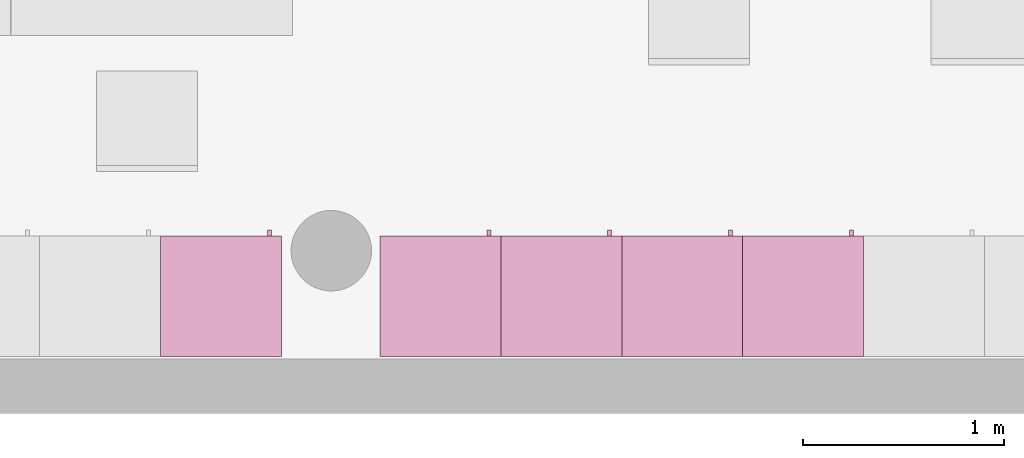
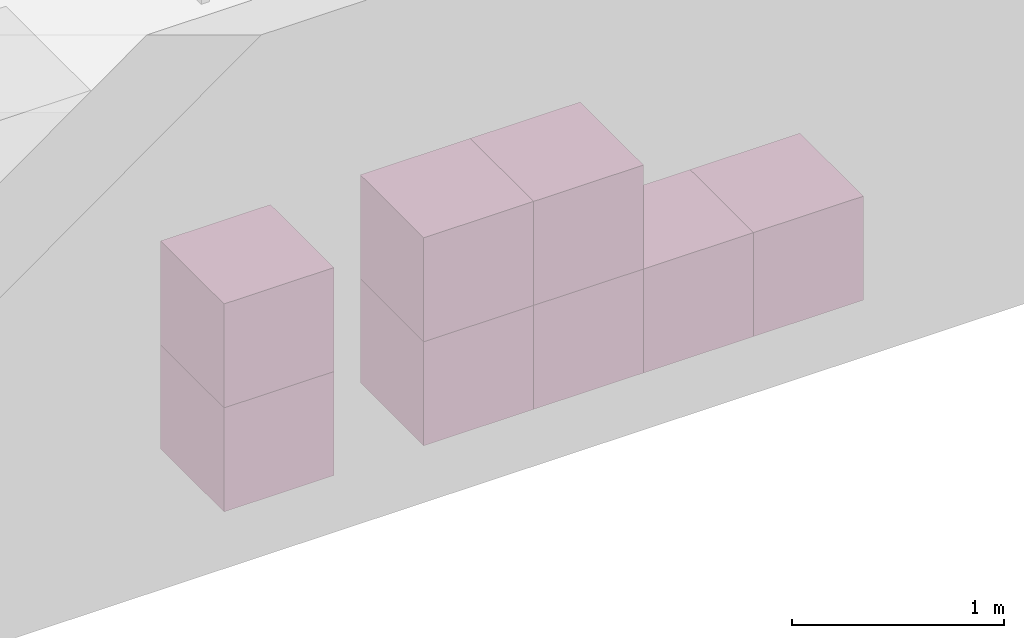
"""IFC4 building model written with IfcOpenShell, lengths in metres."""

from ifc_helpers import new_model, entity, si_unit, converted_unit, derived_unit, frame, origin, place, context, subcontext, project, spatial, faceted_brep, element, save


model = new_model("IFC4")

# Units and contexts
model_context = context("Model", 3, precision=1e-05, world=origin())
body_context = subcontext(model_context, "Body", "Model", "MODEL_VIEW")
ifc_project = project(units=[si_unit("LENGTHUNIT", "METRE"), si_unit("AREAUNIT", "SQUARE_METRE"), si_unit("VOLUMEUNIT", "CUBIC_METRE"), si_unit("MASSUNIT", "GRAM", prefix="KILO"), converted_unit("PLANEANGLEUNIT", "DEGREE", entity("IfcPlaneAngleMeasure", 0.0174532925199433), si_unit("PLANEANGLEUNIT", "RADIAN"), dimensions=[0, 0, 0, 0, 0, 0, 0]), derived_unit("THERMALTRANSMITTANCEUNIT", [(si_unit("POWERUNIT", "WATT"), 1), (si_unit("THERMODYNAMICTEMPERATUREUNIT", "KELVIN"), -1), (si_unit("LENGTHUNIT", "METRE"), -2)]), derived_unit("VOLUMETRICFLOWRATEUNIT", [(si_unit("LENGTHUNIT", "METRE"), 3), (converted_unit("TIMEUNIT", "hour", entity("IfcTimeMeasure", 3600.0), si_unit("TIMEUNIT", "SECOND"), dimensions=[0, 0, 1, 0, 0, 0, 0]), -1), (si_unit("LENGTHUNIT", "METRE"), -1)])], contexts=[model_context])

# Building, storeys
building_placement = place(None, origin())
building = spatial("IfcBuilding", under=ifc_project, at=building_placement, Name="HABITATGE PLURIFAMILIAR", CompositionType="ELEMENT")
storey_1_placement = place(building_placement, frame((0.0, 0.0, 18.29)))
storey_1 = spatial("IfcBuildingStorey", under=building, at=storey_1_placement, Name="PLANTA CINQUENA", CompositionType="ELEMENT", Elevation=18.29)
storey_2_placement = place(storey_1_placement, frame((0.0, 0.0, 15.28)))
storey_2 = spatial("IfcBuildingStorey", under=storey_1, at=storey_2_placement, Name="NOU", CompositionType="PARTIAL")

# Furniture
furniture_1_placement = place(storey_2_placement, frame((415.289266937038, 13.1230771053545, -15.2800000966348)))
element("IfcFurniture", 1, at=furniture_1_placement, inside=storey_2, Name="Armai 60x60x60_P5", context=body_context, shape_type="Brep", body=[
    faceted_brep([(0.600000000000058, 0.6, 0.02), (0.0, 0.6, 0.02), (0.0, 0.6, 0.0), (0.600000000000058, 0.6, 0.0), (0.0, 0.0, 0.02), (0.0, 0.0, 0.0), (0.600000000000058, 0.0, 0.02), (0.600000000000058, 0.0, 0.0)], [[[0, 1, 2, 3]], [[1, 4, 5, 2]], [[4, 6, 7, 5]], [[6, 0, 3, 7]], [[0, 6, 4, 1]], [[3, 2, 5, 7]]], orient=[[False], [False], [False], [False], [False], [False]]),
    faceted_brep([(0.02, 0.0, 0.58), (0.02, 0.0, 0.02), (0.02, 0.0200000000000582, 0.02), (0.02, 0.0200000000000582, 0.58), (0.58, 0.0, 0.02), (0.58, 0.0200000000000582, 0.02), (0.58, 0.0, 0.58), (0.58, 0.0200000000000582, 0.58)], [[[0, 1, 2, 3]], [[1, 4, 5, 2]], [[4, 6, 7, 5]], [[6, 0, 3, 7]], [[0, 6, 4, 1]], [[3, 2, 5, 7]]], orient=[[False], [False], [False], [False], [False], [False]]),
    faceted_brep([(0.58, 0.6, 0.58), (0.58, 0.6, 0.02), (0.6, 0.6, 0.02), (0.6, 0.6, 0.58), (0.58, 0.0, 0.02), (0.6, 0.0, 0.02), (0.58, 0.0, 0.58), (0.6, 0.0, 0.58)], [[[0, 1, 2, 3]], [[1, 4, 5, 2]], [[4, 6, 7, 5]], [[6, 0, 3, 7]], [[0, 6, 4, 1]], [[3, 2, 5, 7]]], orient=[[False], [False], [False], [False], [False], [False]]),
    faceted_brep([(0.600000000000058, 0.58, 0.58), (0.600000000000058, 0.58, 0.02), (0.600000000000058, 0.6, 0.02), (0.600000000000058, 0.6, 0.58), (0.580000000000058, 0.58, 0.02), (0.580000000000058, 0.6, 0.02), (0.580000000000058, 0.58, 0.58), (0.580000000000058, 0.6, 0.58)], [[[0, 1, 2, 3]], [[1, 4, 5, 2]], [[4, 6, 7, 5]], [[6, 0, 3, 7]], [[0, 6, 4, 1]], [[3, 2, 5, 7]]], orient=[[False], [False], [False], [False], [False], [False]]),
    faceted_brep([(0.0, 0.6, 0.58), (0.0, 0.6, 0.02), (0.0200000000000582, 0.6, 0.02), (0.0200000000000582, 0.6, 0.58), (0.0, 0.0, 0.02), (0.0200000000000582, 0.0, 0.02), (0.0, 0.0, 0.58), (0.0200000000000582, 0.0, 0.58)], [[[0, 1, 2, 3]], [[1, 4, 5, 2]], [[4, 6, 7, 5]], [[6, 0, 3, 7]], [[0, 6, 4, 1]], [[3, 2, 5, 7]]], orient=[[False], [False], [False], [False], [False], [False]]),
    faceted_brep([(0.6, 0.600000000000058, 0.6), (0.0, 0.600000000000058, 0.6), (0.0, 0.600000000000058, 0.58), (0.6, 0.600000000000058, 0.58), (0.0, 0.0, 0.6), (0.0, 0.0, 0.58), (0.6, 0.0, 0.6), (0.6, 0.0, 0.58)], [[[0, 1, 2, 3]], [[1, 4, 5, 2]], [[4, 6, 7, 5]], [[6, 0, 3, 7]], [[0, 6, 4, 1]], [[3, 2, 5, 7]]], orient=[[False], [False], [False], [False], [False], [False]]),
    faceted_brep([(0.02, 0.580000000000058, 0.58), (0.02, 0.580000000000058, 0.02), (0.02, 0.600000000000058, 0.02), (0.02, 0.600000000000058, 0.58), (0.580000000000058, 0.580000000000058, 0.02), (0.580000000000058, 0.600000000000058, 0.02), (0.580000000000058, 0.580000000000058, 0.58), (0.580000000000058, 0.600000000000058, 0.58)], [[[0, 1, 2, 3]], [[1, 4, 5, 2]], [[4, 6, 7, 5]], [[6, 0, 3, 7]], [[0, 6, 4, 1]], [[3, 2, 5, 7]]], orient=[[False], [False], [False], [False], [False], [False]]),
    faceted_brep([(0.53, 0.600000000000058, 0.358064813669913), (0.53, 0.600000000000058, 0.258064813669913), (0.53, 0.630000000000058, 0.258064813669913), (0.53, 0.630000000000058, 0.358064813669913), (0.55, 0.600000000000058, 0.258064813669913), (0.55, 0.630000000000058, 0.258064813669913), (0.55, 0.600000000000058, 0.358064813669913), (0.55, 0.630000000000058, 0.358064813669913)], [[[0, 1, 2, 3]], [[1, 4, 5, 2]], [[4, 6, 7, 5]], [[6, 0, 3, 7]], [[0, 6, 4, 1]], [[3, 2, 5, 7]]], orient=[[False], [False], [False], [False], [False], [False]]),
])
furniture_2_placement = place(storey_2_placement, frame((417.579266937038, 13.1230771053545, -15.2800000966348)))
element("IfcFurniture", 2, at=furniture_2_placement, inside=storey_2, Name="Armai 60x60x60_P5", context=body_context, shape_type="Brep", body=[
    faceted_brep([(0.600000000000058, 0.6, 0.02), (0.0, 0.6, 0.02), (0.0, 0.6, 0.0), (0.600000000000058, 0.6, 0.0), (0.0, 0.0, 0.02), (0.0, 0.0, 0.0), (0.600000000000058, 0.0, 0.02), (0.600000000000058, 0.0, 0.0)], [[[0, 1, 2, 3]], [[1, 4, 5, 2]], [[4, 6, 7, 5]], [[6, 0, 3, 7]], [[0, 6, 4, 1]], [[3, 2, 5, 7]]], orient=[[False], [False], [False], [False], [False], [False]]),
    faceted_brep([(0.02, 0.0, 0.58), (0.02, 0.0, 0.02), (0.02, 0.0200000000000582, 0.02), (0.02, 0.0200000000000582, 0.58), (0.58, 0.0, 0.02), (0.58, 0.0200000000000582, 0.02), (0.58, 0.0, 0.58), (0.58, 0.0200000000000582, 0.58)], [[[0, 1, 2, 3]], [[1, 4, 5, 2]], [[4, 6, 7, 5]], [[6, 0, 3, 7]], [[0, 6, 4, 1]], [[3, 2, 5, 7]]], orient=[[False], [False], [False], [False], [False], [False]]),
    faceted_brep([(0.58, 0.6, 0.58), (0.58, 0.6, 0.02), (0.6, 0.6, 0.02), (0.6, 0.6, 0.58), (0.58, 0.0, 0.02), (0.6, 0.0, 0.02), (0.58, 0.0, 0.58), (0.6, 0.0, 0.58)], [[[0, 1, 2, 3]], [[1, 4, 5, 2]], [[4, 6, 7, 5]], [[6, 0, 3, 7]], [[0, 6, 4, 1]], [[3, 2, 5, 7]]], orient=[[False], [False], [False], [False], [False], [False]]),
    faceted_brep([(0.600000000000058, 0.58, 0.58), (0.600000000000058, 0.58, 0.02), (0.600000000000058, 0.6, 0.02), (0.600000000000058, 0.6, 0.58), (0.580000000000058, 0.58, 0.02), (0.580000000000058, 0.6, 0.02), (0.580000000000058, 0.58, 0.58), (0.580000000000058, 0.6, 0.58)], [[[0, 1, 2, 3]], [[1, 4, 5, 2]], [[4, 6, 7, 5]], [[6, 0, 3, 7]], [[0, 6, 4, 1]], [[3, 2, 5, 7]]], orient=[[False], [False], [False], [False], [False], [False]]),
    faceted_brep([(0.0, 0.6, 0.58), (0.0, 0.6, 0.02), (0.0200000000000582, 0.6, 0.02), (0.0200000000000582, 0.6, 0.58), (0.0, 0.0, 0.02), (0.0200000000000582, 0.0, 0.02), (0.0, 0.0, 0.58), (0.0200000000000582, 0.0, 0.58)], [[[0, 1, 2, 3]], [[1, 4, 5, 2]], [[4, 6, 7, 5]], [[6, 0, 3, 7]], [[0, 6, 4, 1]], [[3, 2, 5, 7]]], orient=[[False], [False], [False], [False], [False], [False]]),
    faceted_brep([(0.6, 0.600000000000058, 0.6), (0.0, 0.600000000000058, 0.6), (0.0, 0.600000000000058, 0.58), (0.6, 0.600000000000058, 0.58), (0.0, 0.0, 0.6), (0.0, 0.0, 0.58), (0.6, 0.0, 0.6), (0.6, 0.0, 0.58)], [[[0, 1, 2, 3]], [[1, 4, 5, 2]], [[4, 6, 7, 5]], [[6, 0, 3, 7]], [[0, 6, 4, 1]], [[3, 2, 5, 7]]], orient=[[False], [False], [False], [False], [False], [False]]),
    faceted_brep([(0.02, 0.580000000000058, 0.58), (0.02, 0.580000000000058, 0.02), (0.02, 0.600000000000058, 0.02), (0.02, 0.600000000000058, 0.58), (0.580000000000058, 0.580000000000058, 0.02), (0.580000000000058, 0.600000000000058, 0.02), (0.580000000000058, 0.580000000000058, 0.58), (0.580000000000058, 0.600000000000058, 0.58)], [[[0, 1, 2, 3]], [[1, 4, 5, 2]], [[4, 6, 7, 5]], [[6, 0, 3, 7]], [[0, 6, 4, 1]], [[3, 2, 5, 7]]], orient=[[False], [False], [False], [False], [False], [False]]),
    faceted_brep([(0.53, 0.600000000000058, 0.358064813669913), (0.53, 0.600000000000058, 0.258064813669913), (0.53, 0.630000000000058, 0.258064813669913), (0.53, 0.630000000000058, 0.358064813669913), (0.55, 0.600000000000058, 0.258064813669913), (0.55, 0.630000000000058, 0.258064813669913), (0.55, 0.600000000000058, 0.358064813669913), (0.55, 0.630000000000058, 0.358064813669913)], [[[0, 1, 2, 3]], [[1, 4, 5, 2]], [[4, 6, 7, 5]], [[6, 0, 3, 7]], [[0, 6, 4, 1]], [[3, 2, 5, 7]]], orient=[[False], [False], [False], [False], [False], [False]]),
])
furniture_3_placement = place(storey_2_placement, frame((416.979266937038, 13.1230771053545, -15.2800000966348)))
element("IfcFurniture", 3, at=furniture_3_placement, inside=storey_2, Name="Armai 60x60x60_P5", context=body_context, shape_type="Brep", body=[
    faceted_brep([(0.600000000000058, 0.6, 0.02), (0.0, 0.6, 0.02), (0.0, 0.6, 0.0), (0.600000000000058, 0.6, 0.0), (0.0, 0.0, 0.02), (0.0, 0.0, 0.0), (0.600000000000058, 0.0, 0.02), (0.600000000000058, 0.0, 0.0)], [[[0, 1, 2, 3]], [[1, 4, 5, 2]], [[4, 6, 7, 5]], [[6, 0, 3, 7]], [[0, 6, 4, 1]], [[3, 2, 5, 7]]], orient=[[False], [False], [False], [False], [False], [False]]),
    faceted_brep([(0.02, 0.0, 0.58), (0.02, 0.0, 0.02), (0.02, 0.0200000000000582, 0.02), (0.02, 0.0200000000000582, 0.58), (0.58, 0.0, 0.02), (0.58, 0.0200000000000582, 0.02), (0.58, 0.0, 0.58), (0.58, 0.0200000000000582, 0.58)], [[[0, 1, 2, 3]], [[1, 4, 5, 2]], [[4, 6, 7, 5]], [[6, 0, 3, 7]], [[0, 6, 4, 1]], [[3, 2, 5, 7]]], orient=[[False], [False], [False], [False], [False], [False]]),
    faceted_brep([(0.58, 0.6, 0.58), (0.58, 0.6, 0.02), (0.6, 0.6, 0.02), (0.6, 0.6, 0.58), (0.58, 0.0, 0.02), (0.6, 0.0, 0.02), (0.58, 0.0, 0.58), (0.6, 0.0, 0.58)], [[[0, 1, 2, 3]], [[1, 4, 5, 2]], [[4, 6, 7, 5]], [[6, 0, 3, 7]], [[0, 6, 4, 1]], [[3, 2, 5, 7]]], orient=[[False], [False], [False], [False], [False], [False]]),
    faceted_brep([(0.600000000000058, 0.58, 0.58), (0.600000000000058, 0.58, 0.02), (0.600000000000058, 0.6, 0.02), (0.600000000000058, 0.6, 0.58), (0.580000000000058, 0.58, 0.02), (0.580000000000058, 0.6, 0.02), (0.580000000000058, 0.58, 0.58), (0.580000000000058, 0.6, 0.58)], [[[0, 1, 2, 3]], [[1, 4, 5, 2]], [[4, 6, 7, 5]], [[6, 0, 3, 7]], [[0, 6, 4, 1]], [[3, 2, 5, 7]]], orient=[[False], [False], [False], [False], [False], [False]]),
    faceted_brep([(0.0, 0.6, 0.58), (0.0, 0.6, 0.02), (0.0200000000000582, 0.6, 0.02), (0.0200000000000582, 0.6, 0.58), (0.0, 0.0, 0.02), (0.0200000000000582, 0.0, 0.02), (0.0, 0.0, 0.58), (0.0200000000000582, 0.0, 0.58)], [[[0, 1, 2, 3]], [[1, 4, 5, 2]], [[4, 6, 7, 5]], [[6, 0, 3, 7]], [[0, 6, 4, 1]], [[3, 2, 5, 7]]], orient=[[False], [False], [False], [False], [False], [False]]),
    faceted_brep([(0.6, 0.600000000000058, 0.6), (0.0, 0.600000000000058, 0.6), (0.0, 0.600000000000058, 0.58), (0.6, 0.600000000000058, 0.58), (0.0, 0.0, 0.6), (0.0, 0.0, 0.58), (0.6, 0.0, 0.6), (0.6, 0.0, 0.58)], [[[0, 1, 2, 3]], [[1, 4, 5, 2]], [[4, 6, 7, 5]], [[6, 0, 3, 7]], [[0, 6, 4, 1]], [[3, 2, 5, 7]]], orient=[[False], [False], [False], [False], [False], [False]]),
    faceted_brep([(0.02, 0.580000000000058, 0.58), (0.02, 0.580000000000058, 0.02), (0.02, 0.600000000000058, 0.02), (0.02, 0.600000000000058, 0.58), (0.580000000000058, 0.580000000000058, 0.02), (0.580000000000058, 0.600000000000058, 0.02), (0.580000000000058, 0.580000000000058, 0.58), (0.580000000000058, 0.600000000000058, 0.58)], [[[0, 1, 2, 3]], [[1, 4, 5, 2]], [[4, 6, 7, 5]], [[6, 0, 3, 7]], [[0, 6, 4, 1]], [[3, 2, 5, 7]]], orient=[[False], [False], [False], [False], [False], [False]]),
    faceted_brep([(0.53, 0.600000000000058, 0.358064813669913), (0.53, 0.600000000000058, 0.258064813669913), (0.53, 0.630000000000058, 0.258064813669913), (0.53, 0.630000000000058, 0.358064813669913), (0.55, 0.600000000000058, 0.258064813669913), (0.55, 0.630000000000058, 0.258064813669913), (0.55, 0.600000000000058, 0.358064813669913), (0.55, 0.630000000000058, 0.358064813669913)], [[[0, 1, 2, 3]], [[1, 4, 5, 2]], [[4, 6, 7, 5]], [[6, 0, 3, 7]], [[0, 6, 4, 1]], [[3, 2, 5, 7]]], orient=[[False], [False], [False], [False], [False], [False]]),
])
furniture_4_placement = place(storey_2_placement, frame((416.379266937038, 13.1230771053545, -15.2800000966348)))
element("IfcFurniture", 4, at=furniture_4_placement, inside=storey_2, Name="Armai 60x60x60_P5", context=body_context, shape_type="Brep", body=[
    faceted_brep([(0.600000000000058, 0.6, 0.02), (0.0, 0.6, 0.02), (0.0, 0.6, 0.0), (0.600000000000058, 0.6, 0.0), (0.0, 0.0, 0.02), (0.0, 0.0, 0.0), (0.600000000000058, 0.0, 0.02), (0.600000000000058, 0.0, 0.0)], [[[0, 1, 2, 3]], [[1, 4, 5, 2]], [[4, 6, 7, 5]], [[6, 0, 3, 7]], [[0, 6, 4, 1]], [[3, 2, 5, 7]]], orient=[[False], [False], [False], [False], [False], [False]]),
    faceted_brep([(0.02, 0.0, 0.58), (0.02, 0.0, 0.02), (0.02, 0.0200000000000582, 0.02), (0.02, 0.0200000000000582, 0.58), (0.58, 0.0, 0.02), (0.58, 0.0200000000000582, 0.02), (0.58, 0.0, 0.58), (0.58, 0.0200000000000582, 0.58)], [[[0, 1, 2, 3]], [[1, 4, 5, 2]], [[4, 6, 7, 5]], [[6, 0, 3, 7]], [[0, 6, 4, 1]], [[3, 2, 5, 7]]], orient=[[False], [False], [False], [False], [False], [False]]),
    faceted_brep([(0.58, 0.6, 0.58), (0.58, 0.6, 0.02), (0.6, 0.6, 0.02), (0.6, 0.6, 0.58), (0.58, 0.0, 0.02), (0.6, 0.0, 0.02), (0.58, 0.0, 0.58), (0.6, 0.0, 0.58)], [[[0, 1, 2, 3]], [[1, 4, 5, 2]], [[4, 6, 7, 5]], [[6, 0, 3, 7]], [[0, 6, 4, 1]], [[3, 2, 5, 7]]], orient=[[False], [False], [False], [False], [False], [False]]),
    faceted_brep([(0.600000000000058, 0.58, 0.58), (0.600000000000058, 0.58, 0.02), (0.600000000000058, 0.6, 0.02), (0.600000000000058, 0.6, 0.58), (0.580000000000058, 0.58, 0.02), (0.580000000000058, 0.6, 0.02), (0.580000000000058, 0.58, 0.58), (0.580000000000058, 0.6, 0.58)], [[[0, 1, 2, 3]], [[1, 4, 5, 2]], [[4, 6, 7, 5]], [[6, 0, 3, 7]], [[0, 6, 4, 1]], [[3, 2, 5, 7]]], orient=[[False], [False], [False], [False], [False], [False]]),
    faceted_brep([(0.0, 0.6, 0.58), (0.0, 0.6, 0.02), (0.0200000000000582, 0.6, 0.02), (0.0200000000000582, 0.6, 0.58), (0.0, 0.0, 0.02), (0.0200000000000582, 0.0, 0.02), (0.0, 0.0, 0.58), (0.0200000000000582, 0.0, 0.58)], [[[0, 1, 2, 3]], [[1, 4, 5, 2]], [[4, 6, 7, 5]], [[6, 0, 3, 7]], [[0, 6, 4, 1]], [[3, 2, 5, 7]]], orient=[[False], [False], [False], [False], [False], [False]]),
    faceted_brep([(0.6, 0.600000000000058, 0.6), (0.0, 0.600000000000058, 0.6), (0.0, 0.600000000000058, 0.58), (0.6, 0.600000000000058, 0.58), (0.0, 0.0, 0.6), (0.0, 0.0, 0.58), (0.6, 0.0, 0.6), (0.6, 0.0, 0.58)], [[[0, 1, 2, 3]], [[1, 4, 5, 2]], [[4, 6, 7, 5]], [[6, 0, 3, 7]], [[0, 6, 4, 1]], [[3, 2, 5, 7]]], orient=[[False], [False], [False], [False], [False], [False]]),
    faceted_brep([(0.02, 0.580000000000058, 0.58), (0.02, 0.580000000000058, 0.02), (0.02, 0.600000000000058, 0.02), (0.02, 0.600000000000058, 0.58), (0.580000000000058, 0.580000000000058, 0.02), (0.580000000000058, 0.600000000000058, 0.02), (0.580000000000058, 0.580000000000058, 0.58), (0.580000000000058, 0.600000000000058, 0.58)], [[[0, 1, 2, 3]], [[1, 4, 5, 2]], [[4, 6, 7, 5]], [[6, 0, 3, 7]], [[0, 6, 4, 1]], [[3, 2, 5, 7]]], orient=[[False], [False], [False], [False], [False], [False]]),
    faceted_brep([(0.53, 0.600000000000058, 0.358064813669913), (0.53, 0.600000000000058, 0.258064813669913), (0.53, 0.630000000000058, 0.258064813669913), (0.53, 0.630000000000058, 0.358064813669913), (0.55, 0.600000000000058, 0.258064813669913), (0.55, 0.630000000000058, 0.258064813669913), (0.55, 0.600000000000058, 0.358064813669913), (0.55, 0.630000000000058, 0.358064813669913)], [[[0, 1, 2, 3]], [[1, 4, 5, 2]], [[4, 6, 7, 5]], [[6, 0, 3, 7]], [[0, 6, 4, 1]], [[3, 2, 5, 7]]], orient=[[False], [False], [False], [False], [False], [False]]),
])
furniture_5_placement = place(storey_2_placement, frame((418.179266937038, 13.1230771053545, -15.2800000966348)))
element("IfcFurniture", 5, at=furniture_5_placement, inside=storey_2, Name="Armai 60x60x60_P5", context=body_context, shape_type="Brep", body=[
    faceted_brep([(0.600000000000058, 0.6, 0.02), (0.0, 0.6, 0.02), (0.0, 0.6, 0.0), (0.600000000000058, 0.6, 0.0), (0.0, 0.0, 0.02), (0.0, 0.0, 0.0), (0.600000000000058, 0.0, 0.02), (0.600000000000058, 0.0, 0.0)], [[[0, 1, 2, 3]], [[1, 4, 5, 2]], [[4, 6, 7, 5]], [[6, 0, 3, 7]], [[0, 6, 4, 1]], [[3, 2, 5, 7]]], orient=[[False], [False], [False], [False], [False], [False]]),
    faceted_brep([(0.02, 0.0, 0.58), (0.02, 0.0, 0.02), (0.02, 0.0200000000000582, 0.02), (0.02, 0.0200000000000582, 0.58), (0.58, 0.0, 0.02), (0.58, 0.0200000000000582, 0.02), (0.58, 0.0, 0.58), (0.58, 0.0200000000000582, 0.58)], [[[0, 1, 2, 3]], [[1, 4, 5, 2]], [[4, 6, 7, 5]], [[6, 0, 3, 7]], [[0, 6, 4, 1]], [[3, 2, 5, 7]]], orient=[[False], [False], [False], [False], [False], [False]]),
    faceted_brep([(0.58, 0.6, 0.58), (0.58, 0.6, 0.02), (0.6, 0.6, 0.02), (0.6, 0.6, 0.58), (0.58, 0.0, 0.02), (0.6, 0.0, 0.02), (0.58, 0.0, 0.58), (0.6, 0.0, 0.58)], [[[0, 1, 2, 3]], [[1, 4, 5, 2]], [[4, 6, 7, 5]], [[6, 0, 3, 7]], [[0, 6, 4, 1]], [[3, 2, 5, 7]]], orient=[[False], [False], [False], [False], [False], [False]]),
    faceted_brep([(0.600000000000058, 0.58, 0.58), (0.600000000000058, 0.58, 0.02), (0.600000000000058, 0.6, 0.02), (0.600000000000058, 0.6, 0.58), (0.580000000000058, 0.58, 0.02), (0.580000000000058, 0.6, 0.02), (0.580000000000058, 0.58, 0.58), (0.580000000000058, 0.6, 0.58)], [[[0, 1, 2, 3]], [[1, 4, 5, 2]], [[4, 6, 7, 5]], [[6, 0, 3, 7]], [[0, 6, 4, 1]], [[3, 2, 5, 7]]], orient=[[False], [False], [False], [False], [False], [False]]),
    faceted_brep([(0.0, 0.6, 0.58), (0.0, 0.6, 0.02), (0.0200000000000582, 0.6, 0.02), (0.0200000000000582, 0.6, 0.58), (0.0, 0.0, 0.02), (0.0200000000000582, 0.0, 0.02), (0.0, 0.0, 0.58), (0.0200000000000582, 0.0, 0.58)], [[[0, 1, 2, 3]], [[1, 4, 5, 2]], [[4, 6, 7, 5]], [[6, 0, 3, 7]], [[0, 6, 4, 1]], [[3, 2, 5, 7]]], orient=[[False], [False], [False], [False], [False], [False]]),
    faceted_brep([(0.6, 0.600000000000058, 0.6), (0.0, 0.600000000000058, 0.6), (0.0, 0.600000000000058, 0.58), (0.6, 0.600000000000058, 0.58), (0.0, 0.0, 0.6), (0.0, 0.0, 0.58), (0.6, 0.0, 0.6), (0.6, 0.0, 0.58)], [[[0, 1, 2, 3]], [[1, 4, 5, 2]], [[4, 6, 7, 5]], [[6, 0, 3, 7]], [[0, 6, 4, 1]], [[3, 2, 5, 7]]], orient=[[False], [False], [False], [False], [False], [False]]),
    faceted_brep([(0.02, 0.580000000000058, 0.58), (0.02, 0.580000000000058, 0.02), (0.02, 0.600000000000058, 0.02), (0.02, 0.600000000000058, 0.58), (0.580000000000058, 0.580000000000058, 0.02), (0.580000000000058, 0.600000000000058, 0.02), (0.580000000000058, 0.580000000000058, 0.58), (0.580000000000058, 0.600000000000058, 0.58)], [[[0, 1, 2, 3]], [[1, 4, 5, 2]], [[4, 6, 7, 5]], [[6, 0, 3, 7]], [[0, 6, 4, 1]], [[3, 2, 5, 7]]], orient=[[False], [False], [False], [False], [False], [False]]),
    faceted_brep([(0.53, 0.600000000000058, 0.358064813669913), (0.53, 0.600000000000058, 0.258064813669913), (0.53, 0.630000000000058, 0.258064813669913), (0.53, 0.630000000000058, 0.358064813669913), (0.55, 0.600000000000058, 0.258064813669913), (0.55, 0.630000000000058, 0.258064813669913), (0.55, 0.600000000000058, 0.358064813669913), (0.55, 0.630000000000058, 0.358064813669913)], [[[0, 1, 2, 3]], [[1, 4, 5, 2]], [[4, 6, 7, 5]], [[6, 0, 3, 7]], [[0, 6, 4, 1]], [[3, 2, 5, 7]]], orient=[[False], [False], [False], [False], [False], [False]]),
])
furniture_6_placement = place(storey_2_placement, frame((415.289266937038, 13.1230771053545, -14.6800000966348)))
element("IfcFurniture", 6, at=furniture_6_placement, inside=storey_2, Name="Armai 60x60x60_P5", context=body_context, shape_type="Brep", body=[
    faceted_brep([(0.600000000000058, 0.6, 0.02), (0.0, 0.6, 0.02), (0.0, 0.6, 0.0), (0.600000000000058, 0.6, 0.0), (0.0, 0.0, 0.02), (0.0, 0.0, 0.0), (0.600000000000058, 0.0, 0.02), (0.600000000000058, 0.0, 0.0)], [[[0, 1, 2, 3]], [[1, 4, 5, 2]], [[4, 6, 7, 5]], [[6, 0, 3, 7]], [[0, 6, 4, 1]], [[3, 2, 5, 7]]], orient=[[False], [False], [False], [False], [False], [False]]),
    faceted_brep([(0.02, 0.0, 0.58), (0.02, 0.0, 0.02), (0.02, 0.0200000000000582, 0.02), (0.02, 0.0200000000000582, 0.58), (0.58, 0.0, 0.02), (0.58, 0.0200000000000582, 0.02), (0.58, 0.0, 0.58), (0.58, 0.0200000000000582, 0.58)], [[[0, 1, 2, 3]], [[1, 4, 5, 2]], [[4, 6, 7, 5]], [[6, 0, 3, 7]], [[0, 6, 4, 1]], [[3, 2, 5, 7]]], orient=[[False], [False], [False], [False], [False], [False]]),
    faceted_brep([(0.58, 0.6, 0.58), (0.58, 0.6, 0.02), (0.6, 0.6, 0.02), (0.6, 0.6, 0.58), (0.58, 0.0, 0.02), (0.6, 0.0, 0.02), (0.58, 0.0, 0.58), (0.6, 0.0, 0.58)], [[[0, 1, 2, 3]], [[1, 4, 5, 2]], [[4, 6, 7, 5]], [[6, 0, 3, 7]], [[0, 6, 4, 1]], [[3, 2, 5, 7]]], orient=[[False], [False], [False], [False], [False], [False]]),
    faceted_brep([(0.600000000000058, 0.58, 0.58), (0.600000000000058, 0.58, 0.02), (0.600000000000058, 0.6, 0.02), (0.600000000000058, 0.6, 0.58), (0.580000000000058, 0.58, 0.02), (0.580000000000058, 0.6, 0.02), (0.580000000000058, 0.58, 0.58), (0.580000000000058, 0.6, 0.58)], [[[0, 1, 2, 3]], [[1, 4, 5, 2]], [[4, 6, 7, 5]], [[6, 0, 3, 7]], [[0, 6, 4, 1]], [[3, 2, 5, 7]]], orient=[[False], [False], [False], [False], [False], [False]]),
    faceted_brep([(0.0, 0.6, 0.58), (0.0, 0.6, 0.02), (0.0200000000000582, 0.6, 0.02), (0.0200000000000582, 0.6, 0.58), (0.0, 0.0, 0.02), (0.0200000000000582, 0.0, 0.02), (0.0, 0.0, 0.58), (0.0200000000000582, 0.0, 0.58)], [[[0, 1, 2, 3]], [[1, 4, 5, 2]], [[4, 6, 7, 5]], [[6, 0, 3, 7]], [[0, 6, 4, 1]], [[3, 2, 5, 7]]], orient=[[False], [False], [False], [False], [False], [False]]),
    faceted_brep([(0.6, 0.600000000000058, 0.6), (0.0, 0.600000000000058, 0.6), (0.0, 0.600000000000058, 0.58), (0.6, 0.600000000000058, 0.58), (0.0, 0.0, 0.6), (0.0, 0.0, 0.58), (0.6, 0.0, 0.6), (0.6, 0.0, 0.58)], [[[0, 1, 2, 3]], [[1, 4, 5, 2]], [[4, 6, 7, 5]], [[6, 0, 3, 7]], [[0, 6, 4, 1]], [[3, 2, 5, 7]]], orient=[[False], [False], [False], [False], [False], [False]]),
    faceted_brep([(0.02, 0.580000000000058, 0.58), (0.02, 0.580000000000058, 0.02), (0.02, 0.600000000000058, 0.02), (0.02, 0.600000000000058, 0.58), (0.580000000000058, 0.580000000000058, 0.02), (0.580000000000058, 0.600000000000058, 0.02), (0.580000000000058, 0.580000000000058, 0.58), (0.580000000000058, 0.600000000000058, 0.58)], [[[0, 1, 2, 3]], [[1, 4, 5, 2]], [[4, 6, 7, 5]], [[6, 0, 3, 7]], [[0, 6, 4, 1]], [[3, 2, 5, 7]]], orient=[[False], [False], [False], [False], [False], [False]]),
    faceted_brep([(0.53, 0.600000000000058, 0.358064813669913), (0.53, 0.600000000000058, 0.258064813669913), (0.53, 0.630000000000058, 0.258064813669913), (0.53, 0.630000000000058, 0.358064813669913), (0.55, 0.600000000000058, 0.258064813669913), (0.55, 0.630000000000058, 0.258064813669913), (0.55, 0.600000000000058, 0.358064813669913), (0.55, 0.630000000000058, 0.358064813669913)], [[[0, 1, 2, 3]], [[1, 4, 5, 2]], [[4, 6, 7, 5]], [[6, 0, 3, 7]], [[0, 6, 4, 1]], [[3, 2, 5, 7]]], orient=[[False], [False], [False], [False], [False], [False]]),
])
furniture_7_placement = place(storey_2_placement, frame((416.979266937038, 13.1230771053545, -14.6800000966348)))
element("IfcFurniture", 7, at=furniture_7_placement, inside=storey_2, Name="Armai 60x60x60_P5", context=body_context, shape_type="Brep", body=[
    faceted_brep([(0.600000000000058, 0.6, 0.02), (0.0, 0.6, 0.02), (0.0, 0.6, 0.0), (0.600000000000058, 0.6, 0.0), (0.0, 0.0, 0.02), (0.0, 0.0, 0.0), (0.600000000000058, 0.0, 0.02), (0.600000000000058, 0.0, 0.0)], [[[0, 1, 2, 3]], [[1, 4, 5, 2]], [[4, 6, 7, 5]], [[6, 0, 3, 7]], [[0, 6, 4, 1]], [[3, 2, 5, 7]]], orient=[[False], [False], [False], [False], [False], [False]]),
    faceted_brep([(0.02, 0.0, 0.58), (0.02, 0.0, 0.02), (0.02, 0.0200000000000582, 0.02), (0.02, 0.0200000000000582, 0.58), (0.58, 0.0, 0.02), (0.58, 0.0200000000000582, 0.02), (0.58, 0.0, 0.58), (0.58, 0.0200000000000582, 0.58)], [[[0, 1, 2, 3]], [[1, 4, 5, 2]], [[4, 6, 7, 5]], [[6, 0, 3, 7]], [[0, 6, 4, 1]], [[3, 2, 5, 7]]], orient=[[False], [False], [False], [False], [False], [False]]),
    faceted_brep([(0.58, 0.6, 0.58), (0.58, 0.6, 0.02), (0.6, 0.6, 0.02), (0.6, 0.6, 0.58), (0.58, 0.0, 0.02), (0.6, 0.0, 0.02), (0.58, 0.0, 0.58), (0.6, 0.0, 0.58)], [[[0, 1, 2, 3]], [[1, 4, 5, 2]], [[4, 6, 7, 5]], [[6, 0, 3, 7]], [[0, 6, 4, 1]], [[3, 2, 5, 7]]], orient=[[False], [False], [False], [False], [False], [False]]),
    faceted_brep([(0.600000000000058, 0.58, 0.58), (0.600000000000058, 0.58, 0.02), (0.600000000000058, 0.6, 0.02), (0.600000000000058, 0.6, 0.58), (0.580000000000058, 0.58, 0.02), (0.580000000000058, 0.6, 0.02), (0.580000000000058, 0.58, 0.58), (0.580000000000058, 0.6, 0.58)], [[[0, 1, 2, 3]], [[1, 4, 5, 2]], [[4, 6, 7, 5]], [[6, 0, 3, 7]], [[0, 6, 4, 1]], [[3, 2, 5, 7]]], orient=[[False], [False], [False], [False], [False], [False]]),
    faceted_brep([(0.0, 0.6, 0.58), (0.0, 0.6, 0.02), (0.0200000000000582, 0.6, 0.02), (0.0200000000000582, 0.6, 0.58), (0.0, 0.0, 0.02), (0.0200000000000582, 0.0, 0.02), (0.0, 0.0, 0.58), (0.0200000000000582, 0.0, 0.58)], [[[0, 1, 2, 3]], [[1, 4, 5, 2]], [[4, 6, 7, 5]], [[6, 0, 3, 7]], [[0, 6, 4, 1]], [[3, 2, 5, 7]]], orient=[[False], [False], [False], [False], [False], [False]]),
    faceted_brep([(0.6, 0.600000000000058, 0.6), (0.0, 0.600000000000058, 0.6), (0.0, 0.600000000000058, 0.58), (0.6, 0.600000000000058, 0.58), (0.0, 0.0, 0.6), (0.0, 0.0, 0.58), (0.6, 0.0, 0.6), (0.6, 0.0, 0.58)], [[[0, 1, 2, 3]], [[1, 4, 5, 2]], [[4, 6, 7, 5]], [[6, 0, 3, 7]], [[0, 6, 4, 1]], [[3, 2, 5, 7]]], orient=[[False], [False], [False], [False], [False], [False]]),
    faceted_brep([(0.02, 0.580000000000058, 0.58), (0.02, 0.580000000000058, 0.02), (0.02, 0.600000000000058, 0.02), (0.02, 0.600000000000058, 0.58), (0.580000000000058, 0.580000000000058, 0.02), (0.580000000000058, 0.600000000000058, 0.02), (0.580000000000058, 0.580000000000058, 0.58), (0.580000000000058, 0.600000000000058, 0.58)], [[[0, 1, 2, 3]], [[1, 4, 5, 2]], [[4, 6, 7, 5]], [[6, 0, 3, 7]], [[0, 6, 4, 1]], [[3, 2, 5, 7]]], orient=[[False], [False], [False], [False], [False], [False]]),
    faceted_brep([(0.53, 0.600000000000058, 0.358064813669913), (0.53, 0.600000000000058, 0.258064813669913), (0.53, 0.630000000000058, 0.258064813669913), (0.53, 0.630000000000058, 0.358064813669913), (0.55, 0.600000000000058, 0.258064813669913), (0.55, 0.630000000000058, 0.258064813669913), (0.55, 0.600000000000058, 0.358064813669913), (0.55, 0.630000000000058, 0.358064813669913)], [[[0, 1, 2, 3]], [[1, 4, 5, 2]], [[4, 6, 7, 5]], [[6, 0, 3, 7]], [[0, 6, 4, 1]], [[3, 2, 5, 7]]], orient=[[False], [False], [False], [False], [False], [False]]),
])
furniture_8_placement = place(storey_2_placement, frame((416.379266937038, 13.1230771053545, -14.6800000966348)))
element("IfcFurniture", 8, at=furniture_8_placement, inside=storey_2, Name="Armai 60x60x60_P5", context=body_context, shape_type="Brep", body=[
    faceted_brep([(0.600000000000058, 0.6, 0.02), (0.0, 0.6, 0.02), (0.0, 0.6, 0.0), (0.600000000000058, 0.6, 0.0), (0.0, 0.0, 0.02), (0.0, 0.0, 0.0), (0.600000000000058, 0.0, 0.02), (0.600000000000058, 0.0, 0.0)], [[[0, 1, 2, 3]], [[1, 4, 5, 2]], [[4, 6, 7, 5]], [[6, 0, 3, 7]], [[0, 6, 4, 1]], [[3, 2, 5, 7]]], orient=[[False], [False], [False], [False], [False], [False]]),
    faceted_brep([(0.02, 0.0, 0.58), (0.02, 0.0, 0.02), (0.02, 0.0200000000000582, 0.02), (0.02, 0.0200000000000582, 0.58), (0.58, 0.0, 0.02), (0.58, 0.0200000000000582, 0.02), (0.58, 0.0, 0.58), (0.58, 0.0200000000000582, 0.58)], [[[0, 1, 2, 3]], [[1, 4, 5, 2]], [[4, 6, 7, 5]], [[6, 0, 3, 7]], [[0, 6, 4, 1]], [[3, 2, 5, 7]]], orient=[[False], [False], [False], [False], [False], [False]]),
    faceted_brep([(0.58, 0.6, 0.58), (0.58, 0.6, 0.02), (0.6, 0.6, 0.02), (0.6, 0.6, 0.58), (0.58, 0.0, 0.02), (0.6, 0.0, 0.02), (0.58, 0.0, 0.58), (0.6, 0.0, 0.58)], [[[0, 1, 2, 3]], [[1, 4, 5, 2]], [[4, 6, 7, 5]], [[6, 0, 3, 7]], [[0, 6, 4, 1]], [[3, 2, 5, 7]]], orient=[[False], [False], [False], [False], [False], [False]]),
    faceted_brep([(0.600000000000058, 0.58, 0.58), (0.600000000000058, 0.58, 0.02), (0.600000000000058, 0.6, 0.02), (0.600000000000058, 0.6, 0.58), (0.580000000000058, 0.58, 0.02), (0.580000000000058, 0.6, 0.02), (0.580000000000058, 0.58, 0.58), (0.580000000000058, 0.6, 0.58)], [[[0, 1, 2, 3]], [[1, 4, 5, 2]], [[4, 6, 7, 5]], [[6, 0, 3, 7]], [[0, 6, 4, 1]], [[3, 2, 5, 7]]], orient=[[False], [False], [False], [False], [False], [False]]),
    faceted_brep([(0.0, 0.6, 0.58), (0.0, 0.6, 0.02), (0.0200000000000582, 0.6, 0.02), (0.0200000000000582, 0.6, 0.58), (0.0, 0.0, 0.02), (0.0200000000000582, 0.0, 0.02), (0.0, 0.0, 0.58), (0.0200000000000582, 0.0, 0.58)], [[[0, 1, 2, 3]], [[1, 4, 5, 2]], [[4, 6, 7, 5]], [[6, 0, 3, 7]], [[0, 6, 4, 1]], [[3, 2, 5, 7]]], orient=[[False], [False], [False], [False], [False], [False]]),
    faceted_brep([(0.6, 0.600000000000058, 0.6), (0.0, 0.600000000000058, 0.6), (0.0, 0.600000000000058, 0.58), (0.6, 0.600000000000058, 0.58), (0.0, 0.0, 0.6), (0.0, 0.0, 0.58), (0.6, 0.0, 0.6), (0.6, 0.0, 0.58)], [[[0, 1, 2, 3]], [[1, 4, 5, 2]], [[4, 6, 7, 5]], [[6, 0, 3, 7]], [[0, 6, 4, 1]], [[3, 2, 5, 7]]], orient=[[False], [False], [False], [False], [False], [False]]),
    faceted_brep([(0.02, 0.580000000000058, 0.58), (0.02, 0.580000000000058, 0.02), (0.02, 0.600000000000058, 0.02), (0.02, 0.600000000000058, 0.58), (0.580000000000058, 0.580000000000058, 0.02), (0.580000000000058, 0.600000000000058, 0.02), (0.580000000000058, 0.580000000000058, 0.58), (0.580000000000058, 0.600000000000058, 0.58)], [[[0, 1, 2, 3]], [[1, 4, 5, 2]], [[4, 6, 7, 5]], [[6, 0, 3, 7]], [[0, 6, 4, 1]], [[3, 2, 5, 7]]], orient=[[False], [False], [False], [False], [False], [False]]),
    faceted_brep([(0.53, 0.600000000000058, 0.358064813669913), (0.53, 0.600000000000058, 0.258064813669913), (0.53, 0.630000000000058, 0.258064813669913), (0.53, 0.630000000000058, 0.358064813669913), (0.55, 0.600000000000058, 0.258064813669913), (0.55, 0.630000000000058, 0.258064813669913), (0.55, 0.600000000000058, 0.358064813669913), (0.55, 0.630000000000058, 0.358064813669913)], [[[0, 1, 2, 3]], [[1, 4, 5, 2]], [[4, 6, 7, 5]], [[6, 0, 3, 7]], [[0, 6, 4, 1]], [[3, 2, 5, 7]]], orient=[[False], [False], [False], [False], [False], [False]]),
])

save(model, "model.ifc")
